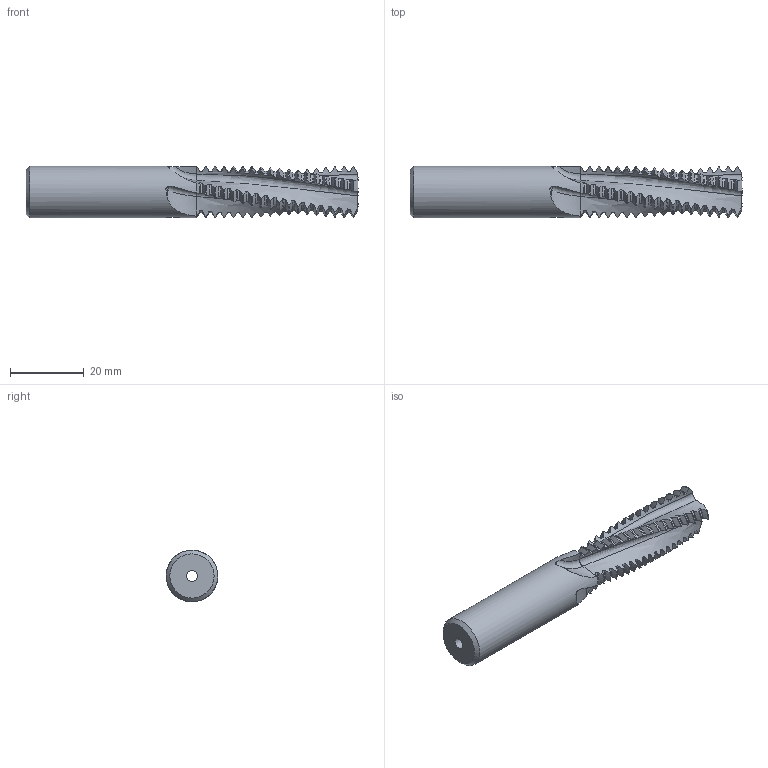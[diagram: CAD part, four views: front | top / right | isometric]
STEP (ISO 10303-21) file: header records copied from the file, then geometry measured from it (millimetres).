
FILE_DESCRIPTION(/* description */ (''),/* implementation_level */ '2;1');
FILE_NAME(/* name */ '00031027-STEP',/* time_stamp */ '2024-02-09T11:36:08+01:00',/* author */ (''),/* organization */ (''),/* preprocessor_version */ 'ST-DEVELOPER v16.5',/* originating_system */ 'HiCAD 2017 2201.0 Build 268',/* authorisation */ '');
FILE_SCHEMA (('AUTOMOTIVE_DESIGN { 1 0 10303 214 1 1 1 1 }'));
Products named in the file (2): Root; ROTATIONSTEIL_1
Assembly tree (1 placements, depth 2):
  Root
    ROTATIONSTEIL_1
Bounding box: 90 x 14 x 14 mm (x, y, z)
Volume: 9135.8 mm3; surface area: 5336 mm2
Topology: 1 solids, 1 shells, 450 faces, 1326 edges, 878 vertices
Faces by surface type: cone 141, cylinder 139, torus 136, bspline 32, plane 2
Full cylindrical faces by diameter (mm): 3 x1, 14 x1
Entity records: 56002 total; most frequent: CARTESIAN_POINT 33257, PRESENTATION_STYLE_ASSIGNMENT 2635, COLOUR_RGB 2635, DRAUGHTING_PRE_DEFINED_CURVE_FONT 2634, CURVE_STYLE 2634, OVER_RIDING_STYLED_ITEM 2634, ORIENTED_EDGE 2634, DIRECTION 1680
